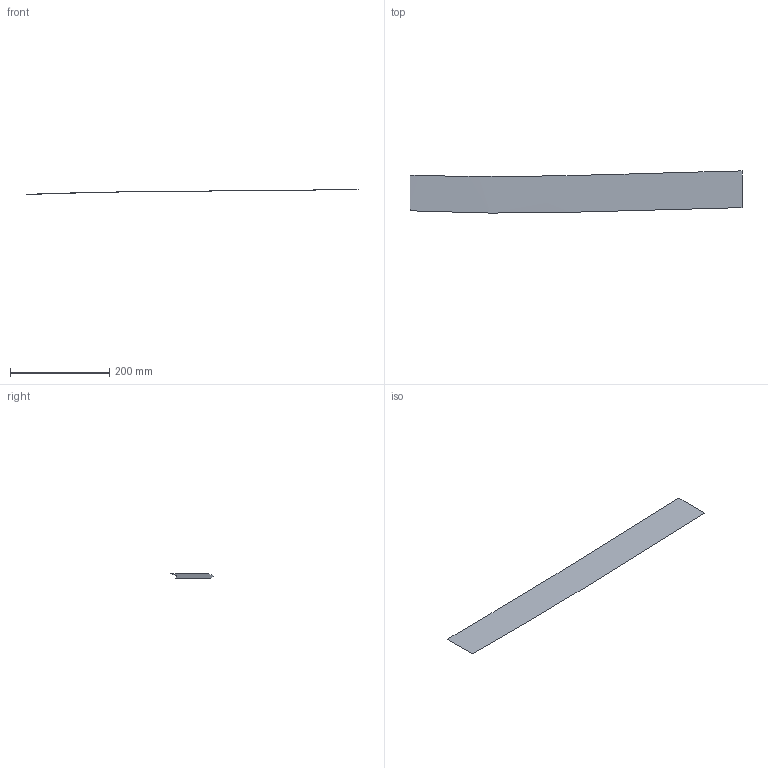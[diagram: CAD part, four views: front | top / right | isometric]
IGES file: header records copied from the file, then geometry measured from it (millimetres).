
Start section: START RECORD GO HERE
Global section: file name: w8.igs; native system: IBM CATIA IGES - CATIA SOLUTIONS V4RELEASE 1.9 REFRESH 01; preprocessor: CATIA SOLUTIONS V4RELEASE 1.9 REFRESH 01; author: cky; date: 990510.133752; units: millimetre
Bounding box: 668.88 x 84.93 x 9.8 mm (x, y, z)
Surface area: 49310.1 mm2 (no closed solid volume)
Topology: 0 solids, 0 shells, 1 faces, 16 edges, 16 vertices
Faces by surface type: extrusion 1
